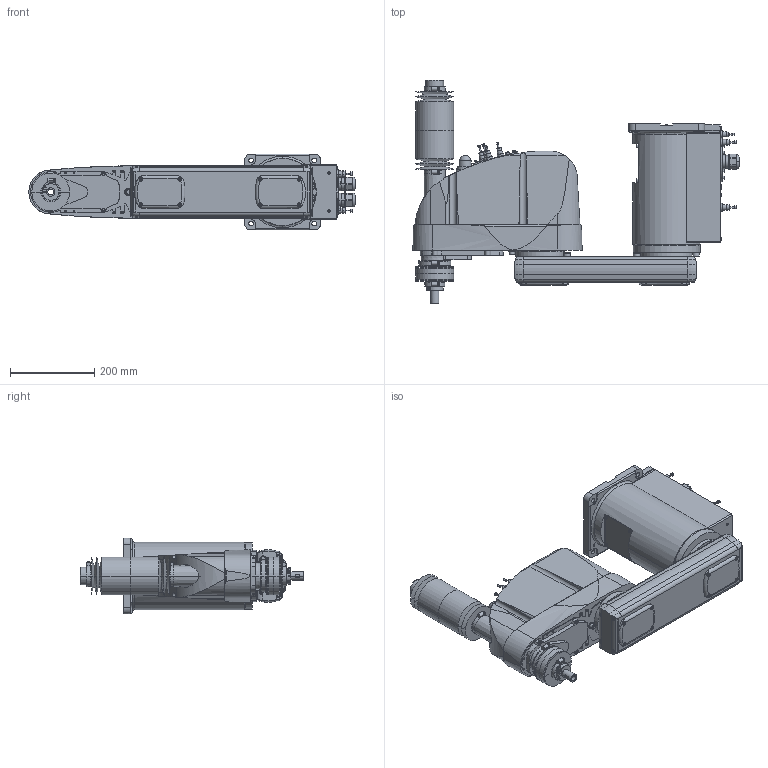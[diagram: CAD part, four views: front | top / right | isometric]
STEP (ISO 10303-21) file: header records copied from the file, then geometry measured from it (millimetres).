
FILE_DESCRIPTION( ( '' ), '1' );
FILE_NAME( '//expscmdclustefs.cadenas.external/client_exchange/iodir/jobs/output/wkb51535997_no0/STEP/G6_551DR_2_03.stp', '2012-11-23T09:29:19', ( '' ), ( '' ), ' ', ' ', ' ' );
FILE_SCHEMA( ( 'CONFIG_CONTROL_DESIGN' ) );
Length unit declared in the file: millimetre
Products named in the file (8): 1; 2; 3; 4; 5; 6; 7; 8
Bounding box: 774 x 529.5 x 180 mm (x, y, z)
Volume: 21572880.5 mm3; surface area: 1085603.4 mm2
Topology: 8 solids, 8 shells, 1818 faces, 4381 edges, 2787 vertices
Faces by surface type: plane 867, cylinder 628, cone 282, torus 40, sphere 1
Entity records: 56656 total; most frequent: CARTESIAN_POINT 12979, DIRECTION 9372, ORIENTED_EDGE 8702, EDGE_CURVE 4351, AXIS2_PLACEMENT_3D 3414, VERTEX_POINT 2787, LINE 2544, VECTOR 2544
